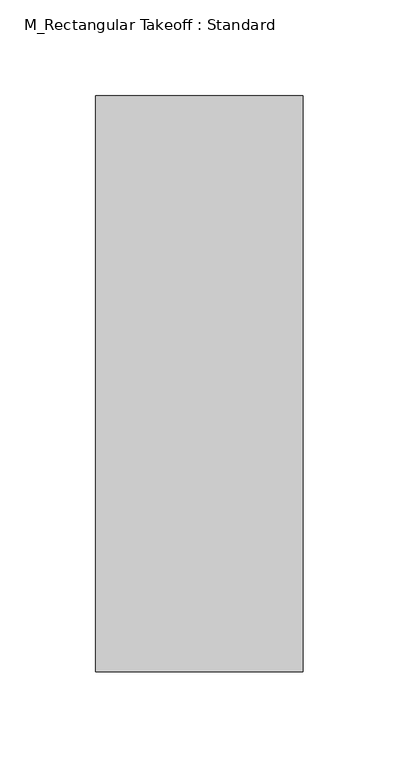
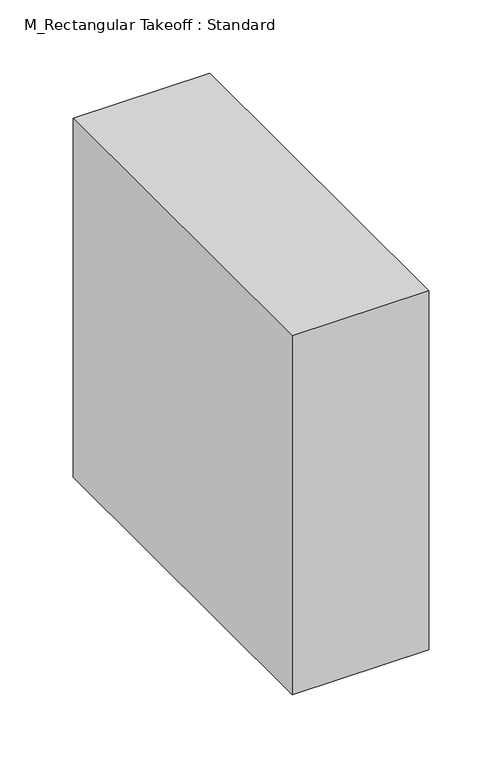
"""IFC4 building model written with IfcOpenShell, lengths in millimetres: duct fitting geometry, M_Rectangular Takeoff : Standard."""

from ifc_helpers import new_model, si_unit, frame, origin, place, context, project, spatial, polyline, outline, extrude, source, transform, mapped, element, save


def m_rectangular_takeoff_standard_6b8816d6(model_context):
    return source(origin(), model_context, "Body", "SweptSolid", [
        extrude(outline(polyline([(-6.096, 150.0), (101.9181862, 150.0), (101.9181862, -150.0), (-6.096, -150.0), (-6.096, 150.0)])), frame((0.0, 0.0, -150.0), z_axis=(0.0, 0.0, 1.0), x_axis=(1.0, 0.0, 0.0)), (0.0, 0.0, 1.0), 300.0),
        extrude(outline(polyline([(-6.096, 150.0), (101.9181862, 150.0), (101.9181862, -150.0), (-6.096, -150.0), (-6.096, 150.0)])), frame((0.0, 0.0, -150.0), z_axis=(0.0, 0.0, 1.0), x_axis=(1.0, 0.0, 0.0)), (0.0, 0.0, 1.0), 300.0),
        extrude(outline(polyline([(-6.096, 150.0), (101.9181862, 150.0), (101.9181862, -150.0), (-6.096, -150.0), (-6.096, 150.0)])), frame((0.0, 0.0, -150.0), z_axis=(0.0, 0.0, 1.0), x_axis=(1.0, 0.0, 0.0)), (0.0, 0.0, 1.0), 300.0),
    ])


if __name__ == "__main__":
    model = new_model("IFC4")
    model_context = context("Model", 3, world=origin())
    ifc_project = project(units=[si_unit("LENGTHUNIT", "METRE", prefix="MILLI")], contexts=[model_context])
    site = spatial("IfcSite", under=ifc_project)
    building = spatial("IfcBuilding", under=site)
    placement = place(None, origin())
    m_rectangular_takeoff_standard_shape = m_rectangular_takeoff_standard_6b8816d6(model_context)
    element("IfcDuctFitting", 1, ObjectType="M_Rectangular Takeoff : Standard", at=placement, inside=building, context=model_context, shape_type="MappedRepresentation", body=[
        mapped(m_rectangular_takeoff_standard_shape, transform((0.0, 0.0, 0.0), x_axis=(1.0, 0.0, 0.0), y_axis=(0.0, 1.0, 0.0), z_axis=(0.0, 0.0, 1.0))),
    ])
    save(model, "model.ifc")
